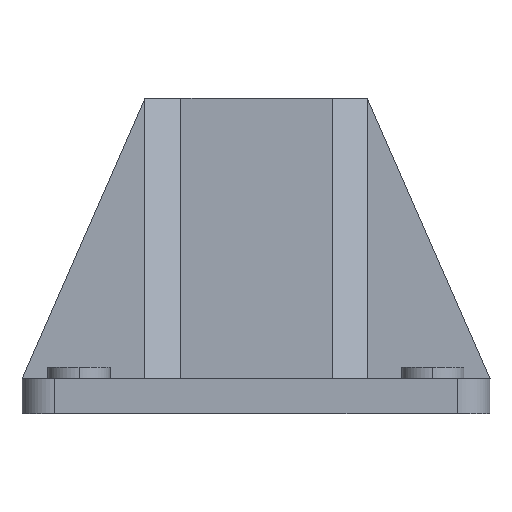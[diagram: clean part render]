
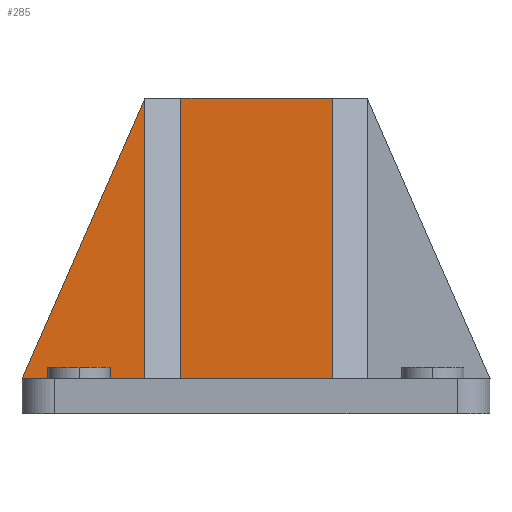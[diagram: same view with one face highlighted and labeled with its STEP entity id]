
A CAD part, left-side view. The second image highlights one B-rep face of the part: STEP entity #285.
In plain terms, the highlighted planar face has unit normal (-1, 0, 0).
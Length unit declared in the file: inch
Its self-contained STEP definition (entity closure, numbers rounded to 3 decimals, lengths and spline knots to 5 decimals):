
#285=ADVANCED_FACE('',(#623),#624,.T.);
#623=FACE_OUTER_BOUND('',#1283,.T.);
#624=PLANE('',#1284);
#1283=EDGE_LOOP('',(#2170,#2171,#2172,#2173,#2174,#2175,#2176,#2177,#2178,#2179));
#1284=AXIS2_PLACEMENT_3D('',#2180,#2181,#2182);
#2170=ORIENTED_EDGE('',*,*,#2509,.T.);
#2171=ORIENTED_EDGE('',*,*,#2713,.F.);
#2172=ORIENTED_EDGE('',*,*,#2544,.T.);
#2173=ORIENTED_EDGE('',*,*,#2695,.F.);
#2174=ORIENTED_EDGE('',*,*,#2657,.T.);
#2175=ORIENTED_EDGE('',*,*,#2807,.T.);
#2176=ORIENTED_EDGE('',*,*,#2808,.F.);
#2177=ORIENTED_EDGE('',*,*,#2643,.F.);
#2178=ORIENTED_EDGE('',*,*,#2792,.T.);
#2179=ORIENTED_EDGE('',*,*,#2639,.T.);
#2180=CARTESIAN_POINT('',(0.96249,2.49831,0.375));
#2181=DIRECTION('',(-1.0,0.0,0.0));
#2182=DIRECTION('',(0.0,-1.0,0.0));
#2509=EDGE_CURVE('',#2955,#2956,#2957,.T.);
#2544=EDGE_CURVE('',#3023,#3021,#3024,.T.);
#2639=EDGE_CURVE('',#3177,#2955,#3178,.T.);
#2643=EDGE_CURVE('',#3183,#3184,#3185,.T.);
#2657=EDGE_CURVE('',#3207,#3204,#3208,.T.);
#2695=EDGE_CURVE('',#3207,#3021,#3261,.T.);
#2713=EDGE_CURVE('',#3023,#2956,#3282,.T.);
#2792=EDGE_CURVE('',#3183,#3177,#3391,.T.);
#2807=EDGE_CURVE('',#3204,#3407,#3408,.T.);
#2808=EDGE_CURVE('',#3184,#3407,#3409,.T.);
#2955=VERTEX_POINT('',#3632);
#2956=VERTEX_POINT('',#3633);
#2957=LINE('',#3634,#3635);
#3021=VERTEX_POINT('',#3765);
#3023=VERTEX_POINT('',#3768);
#3024=LINE('',#3769,#3770);
#3177=VERTEX_POINT('',#4049);
#3178=LINE('',#4050,#4051);
#3183=VERTEX_POINT('',#4058);
#3184=VERTEX_POINT('',#4059);
#3185=LINE('',#4060,#4061);
#3204=VERTEX_POINT('',#4091);
#3207=VERTEX_POINT('',#4095);
#3208=LINE('',#4096,#4097);
#3261=LINE('',#4196,#4197);
#3282=LINE('',#4237,#4238);
#3391=LINE('',#4479,#4480);
#3407=VERTEX_POINT('',#4512);
#3408=LINE('',#4513,#4514);
#3409=LINE('',#4515,#4516);
#3632=CARTESIAN_POINT('',(0.96249,3.31081,3.37456));
#3633=CARTESIAN_POINT('',(0.96249,3.31081,0.375));
#3634=CARTESIAN_POINT('',(0.96249,3.31081,0.99525));
#3635=VECTOR('',#4701,1.0);
#3765=CARTESIAN_POINT('',(0.96249,1.31082,0.37501));
#3768=CARTESIAN_POINT('',(0.96249,1.31082,0.375));
#3769=CARTESIAN_POINT('',(0.96249,1.31082,0.375));
#3770=VECTOR('',#4715,1.0);
#4049=CARTESIAN_POINT('',(0.96249,3.68581,3.37456));
#4050=CARTESIAN_POINT('',(0.96249,3.09206,3.37456));
#4051=VECTOR('',#4767,1.0);
#4058=CARTESIAN_POINT('',(0.96249,3.68581,0.37501));
#4059=CARTESIAN_POINT('',(0.96249,4.99831,0.37501));
#4060=CARTESIAN_POINT('',(0.96249,4.99831,0.37501));
#4061=VECTOR('',#4770,1.);
#4091=CARTESIAN_POINT('',(0.96249,1.68582,3.375));
#4095=CARTESIAN_POINT('',(0.96249,1.68582,0.37501));
#4096=CARTESIAN_POINT('',(0.96249,1.68582,0.37501));
#4097=VECTOR('',#4780,1.0);
#4196=CARTESIAN_POINT('',(0.96249,1.68582,0.37501));
#4197=VECTOR('',#4797,1.);
#4237=CARTESIAN_POINT('',(0.96249,1.31082,0.375));
#4238=VECTOR('',#4805,1.);
#4479=CARTESIAN_POINT('',(0.96249,3.68581,0.99525));
#4480=VECTOR('',#4830,1.0);
#4512=CARTESIAN_POINT('',(0.96249,3.68581,3.375));
#4513=CARTESIAN_POINT('',(0.96249,1.31082,3.375));
#4514=VECTOR('',#4835,1.);
#4515=CARTESIAN_POINT('',(0.96249,3.68581,3.375));
#4516=VECTOR('',#4836,1.0);
#4701=DIRECTION('',(-0.0,0.,-1.0));
#4715=DIRECTION('',(0.0,0.0,1.0));
#4767=DIRECTION('',(0.0,-1.0,0.0));
#4770=DIRECTION('',(0.0,1.0,0.0));
#4780=DIRECTION('',(0.0,0.0,1.0));
#4797=DIRECTION('',(0.0,-1.0,0.0));
#4805=DIRECTION('',(0.0,1.0,0.0));
#4830=DIRECTION('',(0.0,0.,1.0));
#4835=DIRECTION('',(0.0,1.0,0.0));
#4836=DIRECTION('',(0.0,-0.401,0.916));
